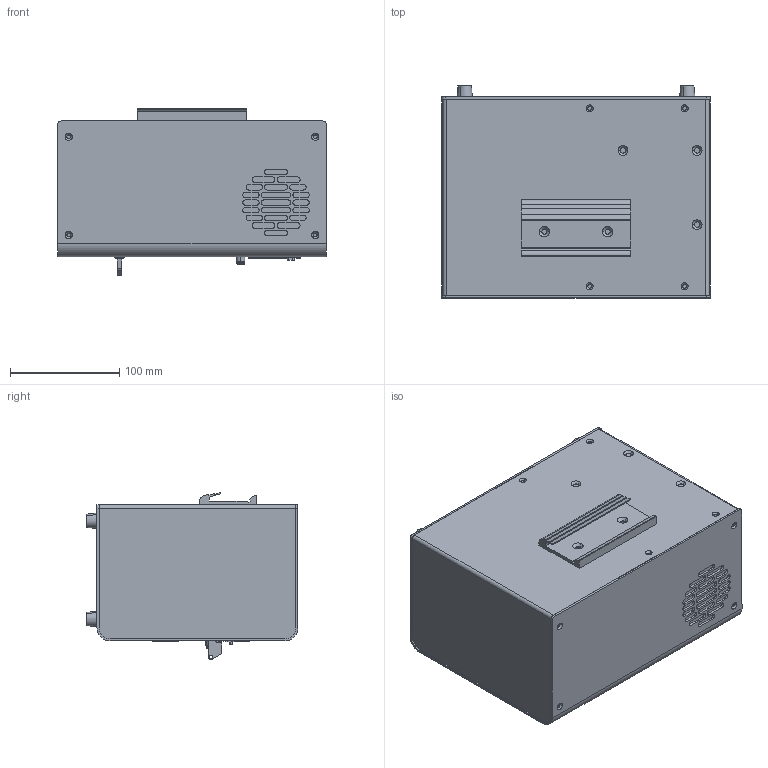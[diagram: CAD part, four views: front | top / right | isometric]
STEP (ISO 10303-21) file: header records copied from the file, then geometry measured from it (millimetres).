
FILE_DESCRIPTION (( 'STEP AP214' ), '1' );
FILE_NAME ('Xenonlampe Micro Epsilon, extrem vereinfacht.STEP', '2011-11-15T14:28:18', ( 'MICRO-EPSILON Optronic GmbH' ), ( 'MICRO-EPSILON Optronic GmbH' ), 'SwSTEP 2.0', 'SolidWorks 2009', '' );
FILE_SCHEMA (( 'AUTOMOTIVE_DESIGN' ));
Length unit declared in the file: millimetre
Products named in the file (1): Xenonlampe Micro Epsilon, extrem vereinfacht
Bounding box: 246 x 194.2 x 152.73 mm (x, y, z)
Volume: 5556911.9 mm3; surface area: 312140 mm2
Topology: 8 solids, 18 shells, 836 faces, 2118 edges, 1356 vertices
Faces by surface type: plane 398, cylinder 303, bspline 107, torus 22, sphere 6
Entity records: 34636 total; most frequent: CARTESIAN_POINT 5083, DIRECTION 4280, ORIENTED_EDGE 4140, EDGE_CURVE 2070, AXIS2_PLACEMENT_3D 1493, VERTEX_POINT 1336, VECTOR 1294, LINE 1294
